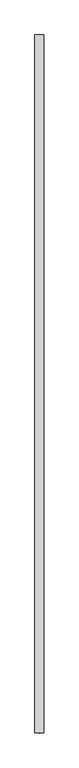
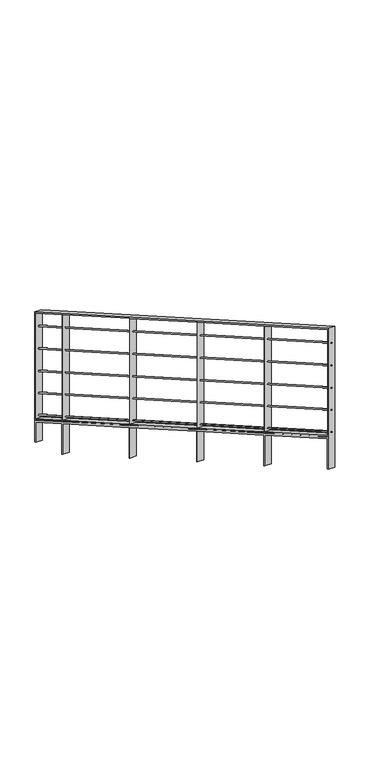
"""IFC4 building model written with IfcOpenShell, lengths in millimetres: railing geometry, Garde-corps 9 : Garde-corps 5."""

from ifc_helpers import new_model, si_unit, point, frame, frame_2d, origin, place, context, project, spatial, polyline, circle_curve, trimmed, segment, composite_curve, outline, extrude, source, transform, mapped, element, save


def railing_ef6e7958(model_context):
    return source(origin(), model_context, "Body", "SweptSolid", [
        extrude(outline(composite_curve([segment(trimmed(circle_curve(frame_2d((-25.0, -67.3)), 5.0), [point((-25.0, -72.3))], [point((-25.0, -62.3))], False, "CARTESIAN"), True, "CONTINUOUS"), segment(trimmed(circle_curve(frame_2d((-25.0, -67.3)), 5.0), [point((-25.0, -62.3))], [point((-25.0, -72.3))], False, "CARTESIAN"), True, "CONTINUOUS")], self_intersect=False)), frame((10408.2466393, 5287.4981433, 191.6530946), z_axis=(0.0, -0.8682431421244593, 0.4961389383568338), x_axis=(1.0, 0.0, 0.0)), (0.0, 0.0, 1.0), 4505.0),
        extrude(outline(composite_curve([segment(trimmed(circle_curve(frame_2d((-25.0, -67.3)), 5.0), [point((-25.0, -72.3))], [point((-25.0, -62.3))], False, "CARTESIAN"), True, "CONTINUOUS"), segment(trimmed(circle_curve(frame_2d((-25.0, -67.3)), 5.0), [point((-25.0, -62.3))], [point((-25.0, -72.3))], False, "CARTESIAN"), True, "CONTINUOUS")], self_intersect=False)), frame((10408.2466393, 5287.4981433, 371.6530946), z_axis=(0.0, -0.8682431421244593, 0.4961389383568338), x_axis=(1.0, 0.0, 0.0)), (0.0, 0.0, 1.0), 4505.0),
        extrude(outline(composite_curve([segment(trimmed(circle_curve(frame_2d((-25.0, -67.3)), 5.0), [point((-25.0, -72.3))], [point((-25.0, -62.3))], False, "CARTESIAN"), True, "CONTINUOUS"), segment(trimmed(circle_curve(frame_2d((-25.0, -67.3)), 5.0), [point((-25.0, -62.3))], [point((-25.0, -72.3))], False, "CARTESIAN"), True, "CONTINUOUS")], self_intersect=False)), frame((10408.2466393, 5287.4981433, 551.6530946), z_axis=(0.0, -0.8682431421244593, 0.4961389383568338), x_axis=(1.0, 0.0, 0.0)), (0.0, 0.0, 1.0), 4505.0),
        extrude(outline(composite_curve([segment(trimmed(circle_curve(frame_2d((-25.0, -67.3)), 5.0), [point((-25.0, -72.3))], [point((-25.0, -62.3))], False, "CARTESIAN"), True, "CONTINUOUS"), segment(trimmed(circle_curve(frame_2d((-25.0, -67.3)), 5.0), [point((-25.0, -62.3))], [point((-25.0, -72.3))], False, "CARTESIAN"), True, "CONTINUOUS")], self_intersect=False)), frame((10408.2466393, 5287.4981433, 734.9530946), z_axis=(0.0, -0.8682431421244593, 0.4961389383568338), x_axis=(1.0, 0.0, 0.0)), (0.0, 0.0, 1.0), 4505.0),
        extrude(outline(composite_curve([segment(trimmed(circle_curve(frame_2d((-25.0, -67.3)), 5.0), [point((-25.0, -72.3))], [point((-25.0, -62.3))], False, "CARTESIAN"), True, "CONTINUOUS"), segment(trimmed(circle_curve(frame_2d((-25.0, -67.3)), 5.0), [point((-25.0, -62.3))], [point((-25.0, -72.3))], False, "CARTESIAN"), True, "CONTINUOUS")], self_intersect=False)), frame((10408.2466393, 5287.4981433, 918.2530946), z_axis=(0.0, -0.8682431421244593, 0.4961389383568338), x_axis=(1.0, 0.0, 0.0)), (0.0, 0.0, 1.0), 4505.0),
        extrude(outline(polyline([(1342.0685723, 3220.0), (5262.5675809, 979.7148522), (5262.5675809, -80.0), (5252.5675809, -80.0), (5252.5675809, 84.207377), (4901.5832812, 284.769834), (4901.5832812, 35.9915949), (4891.5832812, 41.7058806), (4891.5832812, 290.4841197), (4003.2832812, 798.0841197), (4003.2832812, 549.3058806), (3993.2832812, 555.0201663), (3993.2832812, 803.7984054), (3099.9832812, 1314.2555483), (3099.9832812, 1065.4773092), (3089.9832812, 1071.1915949), (3089.9832812, 1319.969834), (2202.0685723, 1827.3496677), (2202.0685723, 1578.5714286), (2192.0685723, 1584.2857143), (2192.0685723, 1833.0639534), (1352.0685723, 2313.0639534), (1352.0685723, 2070.0), (1342.0685723, 2070.0), (1342.0685723, 3220.0)]), holes=[polyline([(2192.0685723, 1860.7059799), (2192.0685723, 2722.7682032), (1352.0685723, 3202.7682032), (1352.0685723, 2340.7059799), (2192.0685723, 1860.7059799)]), polyline([(3089.9832812, 1347.6118605), (3089.9832812, 2209.6740838), (2202.0685723, 2717.0539175), (2202.0685723, 1854.9916942), (3089.9832812, 1347.6118605)]), polyline([(3993.2832812, 831.440432), (3993.2832812, 1693.5026552), (3099.9832812, 2203.9597981), (3099.9832812, 1341.8975748), (3993.2832812, 831.440432)]), polyline([(4891.5832812, 318.1261463), (4891.5832812, 1180.1883695), (4003.2832812, 1687.7883695), (4003.2832812, 825.7261463), (4891.5832812, 318.1261463)]), polyline([(4891.5832812, 307.7603863), (4891.5832812, 308.9121374), (4003.2832812, 816.5121374), (4003.2832812, 815.3603863), (4891.5832812, 307.7603863)]), polyline([(3993.2832812, 821.074672), (3993.2832812, 822.2264231), (3099.9832812, 1332.683566), (3099.9832812, 1331.5318149), (3993.2832812, 821.074672)]), polyline([(3089.9832812, 1337.2461006), (3089.9832812, 1338.3978517), (2202.0685723, 1845.7776854), (2202.0685723, 1844.6259343), (3089.9832812, 1337.2461006)]), polyline([(2192.0685723, 1850.34022), (2192.0685723, 1851.4919711), (1352.0685723, 2331.4919711), (1352.0685723, 2330.34022), (2192.0685723, 1850.34022)]), polyline([(5252.5675809, 973.9116269), (4901.5832812, 1174.4740838), (4901.5832812, 312.4118605), (5252.5675809, 111.8494036), (5252.5675809, 973.9116269)]), polyline([(5252.5675809, 102.6353948), (4901.5832812, 303.1978517), (4901.5832812, 302.0461006), (5252.5675809, 101.4836437), (5252.5675809, 102.6353948)])]), frame((10358.2466393, 0.0, 0.0), z_axis=(1.0, 0.0, 0.0), x_axis=(0.0, 1.0, 0.0)), (0.0, 0.0, 1.0), 50.0),
    ])


if __name__ == "__main__":
    model = new_model("IFC4")
    model_context = context("Model", 3, world=origin())
    ifc_project = project(units=[si_unit("LENGTHUNIT", "METRE", prefix="MILLI")], contexts=[model_context])
    site = spatial("IfcSite", under=ifc_project)
    building = spatial("IfcBuilding", under=site)
    placement = place(None, origin())
    railing_shape = railing_ef6e7958(model_context)
    element("IfcRailing", 1, ObjectType="Garde-corps 9 : Garde-corps 5", at=placement, inside=building, context=model_context, shape_type="MappedRepresentation", body=[
        mapped(railing_shape, transform((0.0, 0.0, 0.0), x_axis=(1.0, 0.0, 0.0), y_axis=(0.0, 1.0, 0.0), z_axis=(0.0, 0.0, 1.0))),
    ])
    save(model, "model.ifc")
